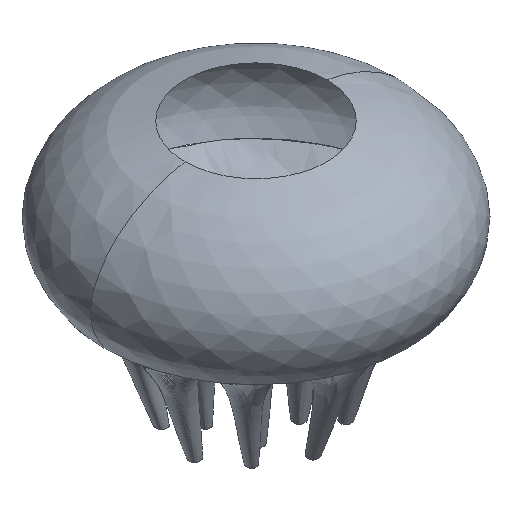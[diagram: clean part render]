
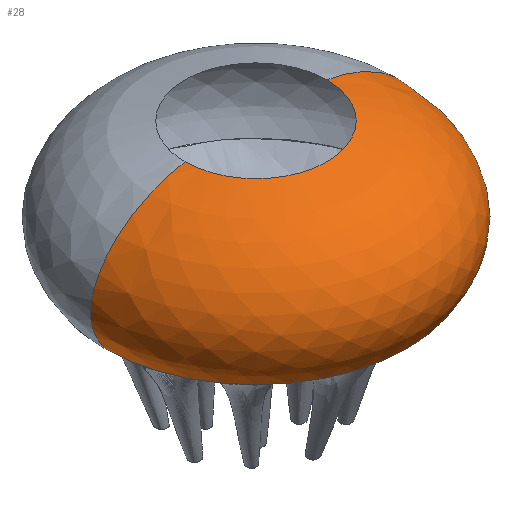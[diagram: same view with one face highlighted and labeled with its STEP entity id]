
A CAD part, isometric view. The second image highlights one B-rep face of the part: STEP entity #28.
In plain terms, the highlighted free-form (B-spline) face has degree [2, 2] with [5, 5] control points.
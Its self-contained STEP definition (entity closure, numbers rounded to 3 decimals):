
#11=(
BOUNDED_CURVE()
B_SPLINE_CURVE(2,(#2415,#2416,#2417,#2418,#2419),.UNSPECIFIED.,.F.,.F.)
B_SPLINE_CURVE_WITH_KNOTS((3,2,3),(1661.637,1818.717,1875.898),
 .UNSPECIFIED.)
CURVE()
GEOMETRIC_REPRESENTATION_ITEM()
RATIONAL_B_SPLINE_CURVE((1.,0.707,1.,0.961,1.))
REPRESENTATION_ITEM('')
);
#14=(
BOUNDED_CURVE()
B_SPLINE_CURVE(2,(#2430,#2431,#2432,#2433,#2434),.UNSPECIFIED.,.F.,.F.)
B_SPLINE_CURVE_WITH_KNOTS((3,2,3),(1661.637,1818.717,1875.898),
 .UNSPECIFIED.)
CURVE()
GEOMETRIC_REPRESENTATION_ITEM()
RATIONAL_B_SPLINE_CURVE((1.,0.707,1.,0.961,1.))
REPRESENTATION_ITEM('')
);
#15=(
BOUNDED_CURVE()
B_SPLINE_CURVE(2,(#2435,#2436,#2437,#2438,#2439),.UNSPECIFIED.,.F.,.F.)
B_SPLINE_CURVE_WITH_KNOTS((3,2,3),(549.776,824.664,1099.552),
 .UNSPECIFIED.)
CURVE()
GEOMETRIC_REPRESENTATION_ITEM()
RATIONAL_B_SPLINE_CURVE((1.,0.707,1.,0.707,1.))
REPRESENTATION_ITEM('')
);
#16=(
BOUNDED_CURVE()
B_SPLINE_CURVE(2,(#2440,#2441,#2442,#2443,#2444),.UNSPECIFIED.,.F.,.F.)
B_SPLINE_CURVE_WITH_KNOTS((3,2,3),(549.776,824.664,1099.552),
 .UNSPECIFIED.)
CURVE()
GEOMETRIC_REPRESENTATION_ITEM()
RATIONAL_B_SPLINE_CURVE((1.,0.657,0.864,0.657,
1.))
REPRESENTATION_ITEM('')
);
#18=(
BOUNDED_SURFACE()
B_SPLINE_SURFACE(2,2,((#2386,#2387,#2388,#2389,#2390),(#2391,#2392,#2393,
#2394,#2395),(#2396,#2397,#2398,#2399,#2400),(#2401,#2402,#2403,#2404,#2405),
(#2406,#2407,#2408,#2409,#2410)),.UNSPECIFIED.,.F.,.F.,.F.)
B_SPLINE_SURFACE_WITH_KNOTS((3,2,3),(3,2,3),(1661.637,1818.717,
1975.796),(549.776,824.664,1099.552),
 .UNSPECIFIED.)
GEOMETRIC_REPRESENTATION_ITEM()
RATIONAL_B_SPLINE_SURFACE(((1.,0.707,1.,0.707,1.),
(0.707,0.5,0.707,0.5,0.707),(1.,0.707,
1.,0.707,1.),(0.707,0.5,0.707,0.5,0.707),
(1.,0.707,1.,0.707,1.)))
REPRESENTATION_ITEM('')
SURFACE()
);
#28=ADVANCED_FACE('',(#47),#18,.T.);
#47=FACE_OUTER_BOUND('',#66,.T.);
#66=EDGE_LOOP('',(#98,#99,#100,#101));
#98=ORIENTED_EDGE('',*,*,#132,.T.);
#99=ORIENTED_EDGE('',*,*,#134,.T.);
#100=ORIENTED_EDGE('',*,*,#129,.F.);
#101=ORIENTED_EDGE('',*,*,#133,.F.);
#129=EDGE_CURVE('',#189,#190,#11,.T.);
#132=EDGE_CURVE('',#191,#192,#14,.T.);
#133=EDGE_CURVE('',#191,#189,#15,.T.);
#134=EDGE_CURVE('',#192,#190,#16,.T.);
#189=VERTEX_POINT('',#2411);
#190=VERTEX_POINT('',#2412);
#191=VERTEX_POINT('',#2413);
#192=VERTEX_POINT('',#2414);
#2386=CARTESIAN_POINT('',(4175.031,-3571.155,143.626));
#2387=CARTESIAN_POINT('',(4175.031,-3614.012,143.626));
#2388=CARTESIAN_POINT('',(4217.888,-3614.012,143.626));
#2389=CARTESIAN_POINT('',(4260.746,-3614.012,143.626));
#2390=CARTESIAN_POINT('',(4260.746,-3571.155,143.626));
#2391=CARTESIAN_POINT('',(4117.887,-3571.155,134.63));
#2392=CARTESIAN_POINT('',(4117.887,-3671.156,134.63));
#2393=CARTESIAN_POINT('',(4217.888,-3671.156,134.63));
#2394=CARTESIAN_POINT('',(4317.89,-3671.156,134.63));
#2395=CARTESIAN_POINT('',(4317.89,-3571.155,134.63));
#2396=CARTESIAN_POINT('',(4117.887,-3571.155,93.301));
#2397=CARTESIAN_POINT('',(4117.887,-3671.156,93.301));
#2398=CARTESIAN_POINT('',(4217.888,-3671.156,93.301));
#2399=CARTESIAN_POINT('',(4317.89,-3671.156,93.301));
#2400=CARTESIAN_POINT('',(4317.89,-3571.155,93.301));
#2401=CARTESIAN_POINT('',(4117.887,-3571.155,52.059));
#2402=CARTESIAN_POINT('',(4117.887,-3671.156,52.059));
#2403=CARTESIAN_POINT('',(4217.888,-3671.156,52.059));
#2404=CARTESIAN_POINT('',(4317.89,-3671.156,52.059));
#2405=CARTESIAN_POINT('',(4317.89,-3571.155,52.059));
#2406=CARTESIAN_POINT('',(4175.031,-3571.155,42.977));
#2407=CARTESIAN_POINT('',(4175.031,-3614.012,42.977));
#2408=CARTESIAN_POINT('',(4217.888,-3614.012,42.977));
#2409=CARTESIAN_POINT('',(4260.746,-3614.012,42.977));
#2410=CARTESIAN_POINT('',(4260.746,-3571.155,42.977));
#2411=CARTESIAN_POINT('',(4260.746,-3571.155,143.626));
#2412=CARTESIAN_POINT('',(4309.129,-3571.155,69.965));
#2413=CARTESIAN_POINT('',(4175.031,-3571.155,143.626));
#2414=CARTESIAN_POINT('',(4126.648,-3571.155,69.965));
#2415=CARTESIAN_POINT('',(4260.746,-3571.155,143.626));
#2416=CARTESIAN_POINT('',(4317.89,-3571.155,134.63));
#2417=CARTESIAN_POINT('',(4317.89,-3571.155,93.301));
#2418=CARTESIAN_POINT('',(4317.89,-3571.155,81.418));
#2419=CARTESIAN_POINT('',(4309.129,-3571.155,69.965));
#2430=CARTESIAN_POINT('',(4175.031,-3571.155,143.626));
#2431=CARTESIAN_POINT('',(4117.887,-3571.155,134.63));
#2432=CARTESIAN_POINT('',(4117.887,-3571.155,93.301));
#2433=CARTESIAN_POINT('',(4117.887,-3571.155,81.418));
#2434=CARTESIAN_POINT('',(4126.648,-3571.155,69.965));
#2435=CARTESIAN_POINT('',(4175.031,-3571.155,143.626));
#2436=CARTESIAN_POINT('',(4175.031,-3614.012,143.626));
#2437=CARTESIAN_POINT('',(4217.888,-3614.012,143.626));
#2438=CARTESIAN_POINT('',(4260.746,-3614.012,143.626));
#2439=CARTESIAN_POINT('',(4260.746,-3571.155,143.626));
#2440=CARTESIAN_POINT('',(4126.648,-3571.155,69.965));
#2441=CARTESIAN_POINT('',(4126.648,-3662.395,69.965));
#2442=CARTESIAN_POINT('',(4217.888,-3662.395,69.965));
#2443=CARTESIAN_POINT('',(4309.129,-3662.395,69.965));
#2444=CARTESIAN_POINT('',(4309.129,-3571.155,69.965));
